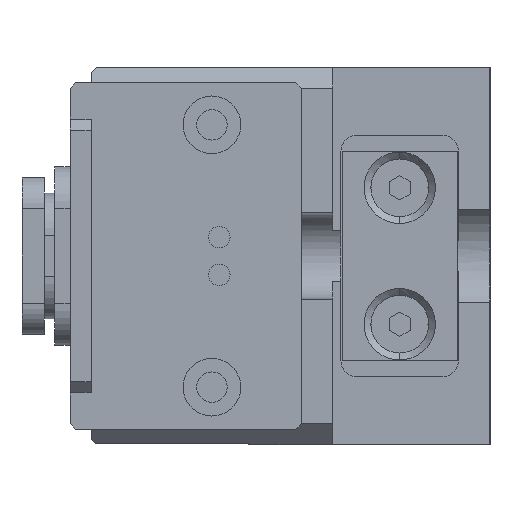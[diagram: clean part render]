
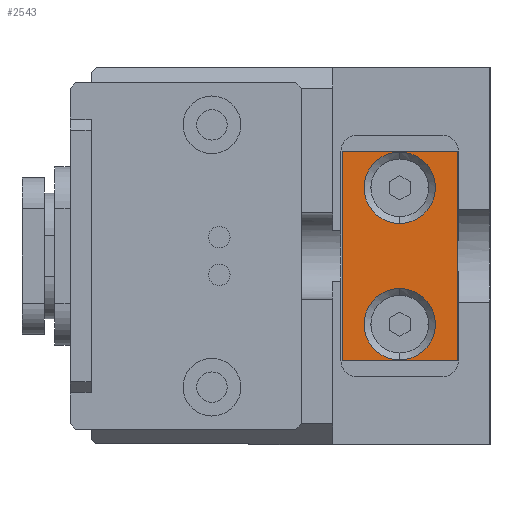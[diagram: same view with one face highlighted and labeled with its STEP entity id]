
A CAD part, left-side view. The second image highlights one B-rep face of the part: STEP entity #2543.
In plain terms, the highlighted planar face has unit normal (-1, 0, 0) as drawn and (1, 0, 0) by its records, which use the part's own axes.
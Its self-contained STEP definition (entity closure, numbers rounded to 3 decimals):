
#405 = PLANE ( 'NONE',  #21776 ) ;
#409 = CARTESIAN_POINT ( 'NONE',  ( 11., 5.5, -3.1 ) ) ;
#613 = AXIS2_PLACEMENT_3D ( 'NONE', #11714, #25874, #13741 ) ;
#1323 = VERTEX_POINT ( 'NONE', #24936 ) ;
#1410 = ORIENTED_EDGE ( 'NONE', *, *, #21871, .T. ) ;
#2473 = DIRECTION ( 'NONE',  ( -1., 0., 0. ) ) ;
#2543 = ADVANCED_FACE ( 'NONE', ( #3985, #16656, #19514 ), #405, .F. ) ;
#3101 = EDGE_CURVE ( 'NONE', #1323, #4645, #20104, .T. ) ;
#3353 = CARTESIAN_POINT ( 'NONE',  ( 11., 5.5, 3.1 ) ) ;
#3816 = VERTEX_POINT ( 'NONE', #7790 ) ;
#3985 = FACE_OUTER_BOUND ( 'NONE', #15470, .T. ) ;
#4534 = EDGE_CURVE ( 'NONE', #1323, #9584, #9073, .T. ) ;
#4645 = VERTEX_POINT ( 'NONE', #26011 ) ;
#4647 = ORIENTED_EDGE ( 'NONE', *, *, #7068, .F. ) ;
#5052 = EDGE_CURVE ( 'NONE', #3816, #25531, #26117, .T. ) ;
#5108 = VECTOR ( 'NONE', #9900, 1000. ) ;
#5918 = ORIENTED_EDGE ( 'NONE', *, *, #23054, .F. ) ;
#6036 = AXIS2_PLACEMENT_3D ( 'NONE', #6894, #21038, #8929 ) ;
#6150 = CARTESIAN_POINT ( 'NONE',  ( 11., 5.5, -6.5 ) ) ;
#6553 = EDGE_LOOP ( 'NONE', ( #11709, #5918 ) ) ;
#6576 = CARTESIAN_POINT ( 'NONE',  ( 11., 11., 0. ) ) ;
#6894 = CARTESIAN_POINT ( 'NONE',  ( 11., 5.5, 6.5 ) ) ;
#7068 = EDGE_CURVE ( 'NONE', #4645, #25368, #8945, .T. ) ;
#7790 = CARTESIAN_POINT ( 'NONE',  ( 11., 5.5, -9.9 ) ) ;
#7890 = CARTESIAN_POINT ( 'NONE',  ( 11., 11., -10. ) ) ;
#8114 = ORIENTED_EDGE ( 'NONE', *, *, #16093, .F. ) ;
#8210 = DIRECTION ( 'NONE',  ( 0., 0., -1. ) ) ;
#8929 = DIRECTION ( 'NONE',  ( 0., 0., -1. ) ) ;
#8945 = LINE ( 'NONE', #6576, #9570 ) ;
#9073 = LINE ( 'NONE', #25835, #19828 ) ;
#9410 = EDGE_CURVE ( 'NONE', #17807, #26037, #20211, .T. ) ;
#9570 = VECTOR ( 'NONE', #22788, 1000. ) ;
#9584 = VERTEX_POINT ( 'NONE', #17481 ) ;
#9900 = DIRECTION ( 'NONE',  ( 0., 1., 0. ) ) ;
#11421 = DIRECTION ( 'NONE',  ( 0., 1., 0. ) ) ;
#11622 = CARTESIAN_POINT ( 'NONE',  ( 11., 5.5, 6.5 ) ) ;
#11709 = ORIENTED_EDGE ( 'NONE', *, *, #5052, .F. ) ;
#11714 = CARTESIAN_POINT ( 'NONE',  ( 11., 5.5, -6.5 ) ) ;
#11934 = CARTESIAN_POINT ( 'NONE',  ( 11., 11., -10. ) ) ;
#13647 = DIRECTION ( 'NONE',  ( 0., 0., -1. ) ) ;
#13741 = DIRECTION ( 'NONE',  ( 0., 0., -1. ) ) ;
#14600 = CARTESIAN_POINT ( 'NONE',  ( 11., 11., 10. ) ) ;
#15470 = EDGE_LOOP ( 'NONE', ( #1410, #4647, #17302, #24996 ) ) ;
#16093 = EDGE_CURVE ( 'NONE', #26037, #17807, #20785, .T. ) ;
#16625 = DIRECTION ( 'NONE',  ( 0., 0., 1. ) ) ;
#16656 = FACE_BOUND ( 'NONE', #19244, .T. ) ;
#17302 = ORIENTED_EDGE ( 'NONE', *, *, #3101, .F. ) ;
#17481 = CARTESIAN_POINT ( 'NONE',  ( 11., 0., -10. ) ) ;
#17807 = VERTEX_POINT ( 'NONE', #18164 ) ;
#18164 = CARTESIAN_POINT ( 'NONE',  ( 11., 5.5, 9.9 ) ) ;
#19244 = EDGE_LOOP ( 'NONE', ( #8114, #25721 ) ) ;
#19466 = VECTOR ( 'NONE', #11421, 1000. ) ;
#19514 = FACE_BOUND ( 'NONE', #6553, .T. ) ;
#19828 = VECTOR ( 'NONE', #25758, 1000. ) ;
#20104 = LINE ( 'NONE', #23577, #19466 ) ;
#20211 = CIRCLE ( 'NONE', #6036, 3.4 ) ;
#20331 = DIRECTION ( 'NONE',  ( 1., 0., 0. ) ) ;
#20785 = CIRCLE ( 'NONE', #24605, 3.4 ) ;
#21038 = DIRECTION ( 'NONE',  ( 1., 0., 0. ) ) ;
#21269 = LINE ( 'NONE', #7890, #5108 ) ;
#21776 = AXIS2_PLACEMENT_3D ( 'NONE', #14600, #2473, #16625 ) ;
#21871 = EDGE_CURVE ( 'NONE', #9584, #25368, #21269, .T. ) ;
#22104 = AXIS2_PLACEMENT_3D ( 'NONE', #6150, #20331, #8210 ) ;
#22788 = DIRECTION ( 'NONE',  ( 0., 0., -1. ) ) ;
#23054 = EDGE_CURVE ( 'NONE', #25531, #3816, #23404, .T. ) ;
#23404 = CIRCLE ( 'NONE', #613, 3.4 ) ;
#23577 = CARTESIAN_POINT ( 'NONE',  ( 11., 11., 10. ) ) ;
#24605 = AXIS2_PLACEMENT_3D ( 'NONE', #11622, #25782, #13647 ) ;
#24936 = CARTESIAN_POINT ( 'NONE',  ( 11., 0., 10. ) ) ;
#24996 = ORIENTED_EDGE ( 'NONE', *, *, #4534, .T. ) ;
#25368 = VERTEX_POINT ( 'NONE', #11934 ) ;
#25531 = VERTEX_POINT ( 'NONE', #409 ) ;
#25721 = ORIENTED_EDGE ( 'NONE', *, *, #9410, .F. ) ;
#25758 = DIRECTION ( 'NONE',  ( 0., 0., -1. ) ) ;
#25782 = DIRECTION ( 'NONE',  ( 1., 0., 0. ) ) ;
#25835 = CARTESIAN_POINT ( 'NONE',  ( 11., 0., 0. ) ) ;
#25874 = DIRECTION ( 'NONE',  ( 1., 0., 0. ) ) ;
#26011 = CARTESIAN_POINT ( 'NONE',  ( 11., 11., 10. ) ) ;
#26037 = VERTEX_POINT ( 'NONE', #3353 ) ;
#26117 = CIRCLE ( 'NONE', #22104, 3.4 ) ;
